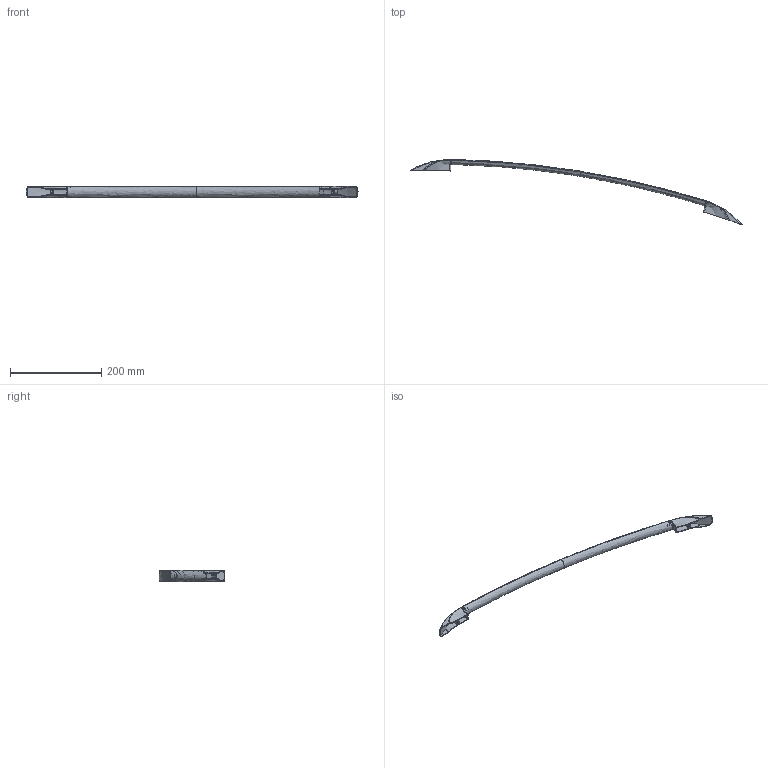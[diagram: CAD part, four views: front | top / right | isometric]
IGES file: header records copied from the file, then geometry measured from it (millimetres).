
Start section: C
Global section: file name: 8206-R2000.igs; native system: By Siemens PLM Incorporated; preprocessor: XPlus GENERIC/IGES 16.0.42; author: Author; organization: Title; date: 20231116.130503; units: millimetre
Bounding box: 727.76 x 143.49 x 24.57 mm (x, y, z)
Surface area: 87772.4 mm2 (no closed solid volume)
Topology: 0 solids, 0 shells, 318 faces, 1880 edges, 1870 vertices
Faces by surface type: bspline 318
